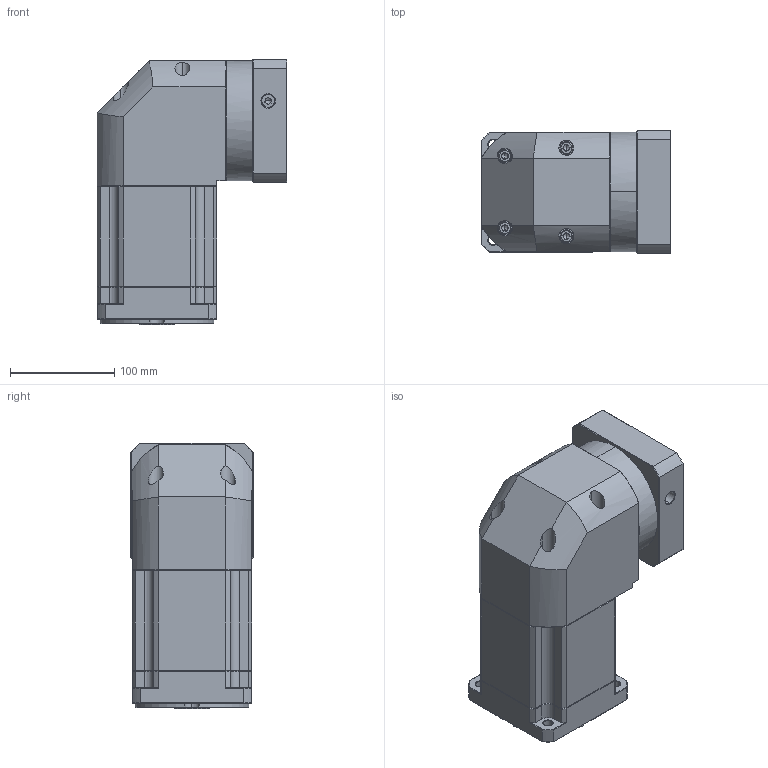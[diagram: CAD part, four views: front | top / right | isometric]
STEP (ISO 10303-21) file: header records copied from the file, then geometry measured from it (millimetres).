
FILE_DESCRIPTION (( 'STEP AP214' ), '1' );
FILE_NAME ('ZBR115A-K25-L3-P2-24-95-115-M6.step', '2023-08-26T12:46:44', ( '' ), ( '' ), 'SwSTEP 2.0', 'SolidWorks 2016', '' );
FILE_SCHEMA (( 'AUTOMOTIVE_DESIGN' ));
Length unit declared in the file: millimetre
Products named in the file (1): ZBR115A-K25-L3-P2-24-95-115-M6
Bounding box: 182.4 x 118 x 255 mm (x, y, z)
Volume: 3474080.1 mm3; surface area: 260272.5 mm2
Topology: 6 solids, 6 shells, 2311 faces, 6043 edges, 3835 vertices
Faces by surface type: plane 1131, bspline 419, cylinder 391, cone 362, torus 8
Entity records: 122874 total; most frequent: CARTESIAN_POINT 43998, ORIENTED_EDGE 12030, DIRECTION 9529, EDGE_CURVE 6015, VECTOR 3917, LINE 3917, VERTEX_POINT 3835, AXIS2_PLACEMENT_3D 2806
